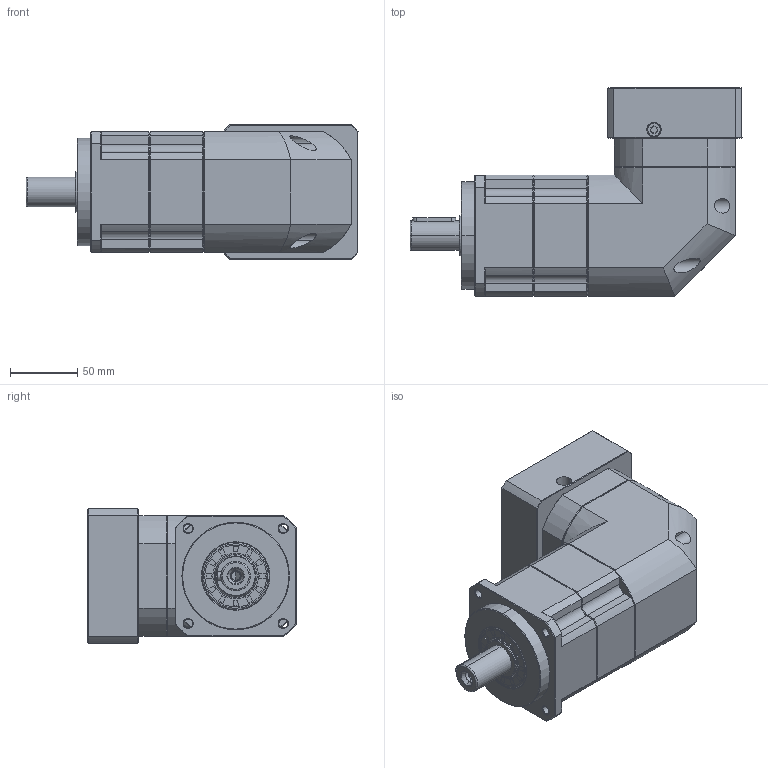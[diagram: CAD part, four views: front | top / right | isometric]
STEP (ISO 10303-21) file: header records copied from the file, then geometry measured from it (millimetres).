
FILE_DESCRIPTION (( 'STEP AP214' ), '1' );
FILE_NAME ('ZPBR090-D22-L2-P1-19-95-115-M8.step', '2024-06-07T18:36:25', ( 'Windows 蚚誧' ), ( 'Organization' ), 'SwSTEP 2.0', 'SolidWorks 2016', '' );
FILE_SCHEMA (( 'AUTOMOTIVE_DESIGN' ));
Length unit declared in the file: millimetre
Products named in the file (1): ZPBR090-D22-L2-P1-19-95-115-M8
Bounding box: 247 x 155 x 100 mm (x, y, z)
Surface area: 147605.3 mm2 (no closed solid volume)
Topology: 0 solids, 33 shells, 1892 faces, 4995 edges, 3188 vertices
Faces by surface type: plane 1009, bspline 373, cone 264, cylinder 229, torus 17
Full cylindrical faces by diameter (mm): 6.72 x1
Entity records: 93591 total; most frequent: CARTESIAN_POINT 45958, ORIENTED_EDGE 9941, DIRECTION 7792, EDGE_CURVE 4990, LINE 3308, VECTOR 3308, VERTEX_POINT 3186, AXIS2_PLACEMENT_3D 2242
